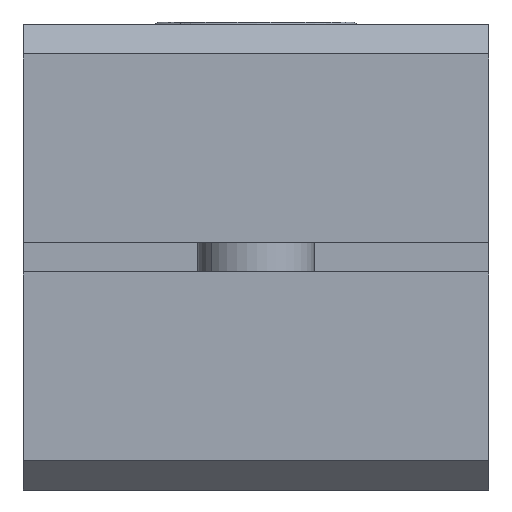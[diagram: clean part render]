
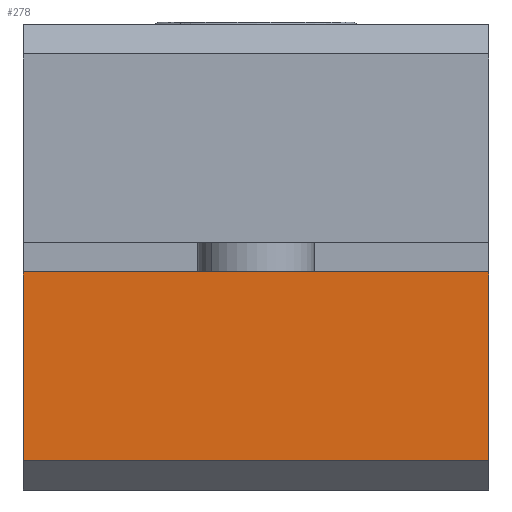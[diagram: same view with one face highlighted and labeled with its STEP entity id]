
A CAD part, left-side view. The second image highlights one B-rep face of the part: STEP entity #278.
In plain terms, the highlighted planar face has unit normal (-1, 0, 0).
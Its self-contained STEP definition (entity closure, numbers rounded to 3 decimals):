
#74 = DIRECTION ( 'NONE',  ( 0., -1., 0. ) ) ;
#278 = ADVANCED_FACE ( 'NONE', ( #10687 ), #6175, .T. ) ;
#433 = EDGE_LOOP ( 'NONE', ( #5383, #5536, #9986, #8509 ) ) ;
#702 = DIRECTION ( 'NONE',  ( 0., 0., -1. ) ) ;
#1089 = CARTESIAN_POINT ( 'NONE',  ( -114.292, 11.761, 38.882 ) ) ;
#1616 = VERTEX_POINT ( 'NONE', #3162 ) ;
#1903 = DIRECTION ( 'NONE',  ( 0., 0., -1. ) ) ;
#2802 = CARTESIAN_POINT ( 'NONE',  ( -114.292, -4.239, 45.882 ) ) ;
#2850 = DIRECTION ( 'NONE',  ( 0., 1., 0. ) ) ;
#3035 = VECTOR ( 'NONE', #1903, 1000. ) ;
#3162 = CARTESIAN_POINT ( 'NONE',  ( -114.292, -4.239, 38.882 ) ) ;
#3202 = CARTESIAN_POINT ( 'NONE',  ( -114.292, -4.239, 45.382 ) ) ;
#3366 = LINE ( 'NONE', #5139, #5773 ) ;
#3367 = EDGE_CURVE ( 'NONE', #9036, #5343, #4497, .T. ) ;
#3504 = CARTESIAN_POINT ( 'NONE',  ( -114.292, -4.239, 38.882 ) ) ;
#3698 = EDGE_CURVE ( 'NONE', #7961, #9036, #4619, .T. ) ;
#3928 = CARTESIAN_POINT ( 'NONE',  ( -114.292, 3.761, 45.382 ) ) ;
#3930 = VECTOR ( 'NONE', #702, 1000. ) ;
#4284 = EDGE_CURVE ( 'NONE', #5343, #1616, #3366, .T. ) ;
#4308 = CARTESIAN_POINT ( 'NONE',  ( -114.292, 11.761, 45.882 ) ) ;
#4497 = LINE ( 'NONE', #4308, #3930 ) ;
#4619 = LINE ( 'NONE', #3928, #4925 ) ;
#4925 = VECTOR ( 'NONE', #2850, 1000. ) ;
#5139 = CARTESIAN_POINT ( 'NONE',  ( -114.292, 3.761, 38.882 ) ) ;
#5343 = VERTEX_POINT ( 'NONE', #1089 ) ;
#5383 = ORIENTED_EDGE ( 'NONE', *, *, #6267, .F. ) ;
#5536 = ORIENTED_EDGE ( 'NONE', *, *, #3698, .T. ) ;
#5773 = VECTOR ( 'NONE', #74, 1000. ) ;
#6129 = CARTESIAN_POINT ( 'NONE',  ( -114.292, 11.761, 45.382 ) ) ;
#6175 = PLANE ( 'NONE',  #6457 ) ;
#6267 = EDGE_CURVE ( 'NONE', #7961, #1616, #10631, .T. ) ;
#6457 = AXIS2_PLACEMENT_3D ( 'NONE', #3504, #7046, #9765 ) ;
#7046 = DIRECTION ( 'NONE',  ( -1., 0., 0. ) ) ;
#7961 = VERTEX_POINT ( 'NONE', #3202 ) ;
#8509 = ORIENTED_EDGE ( 'NONE', *, *, #4284, .T. ) ;
#9036 = VERTEX_POINT ( 'NONE', #6129 ) ;
#9765 = DIRECTION ( 'NONE',  ( 0., 0., 1. ) ) ;
#9986 = ORIENTED_EDGE ( 'NONE', *, *, #3367, .T. ) ;
#10631 = LINE ( 'NONE', #2802, #3035 ) ;
#10687 = FACE_OUTER_BOUND ( 'NONE', #433, .T. ) ;
